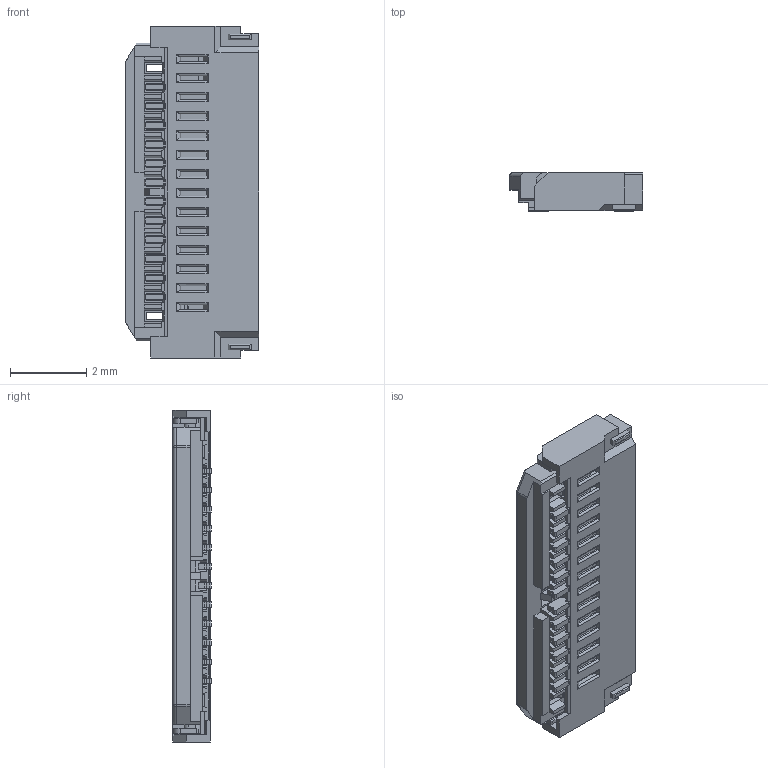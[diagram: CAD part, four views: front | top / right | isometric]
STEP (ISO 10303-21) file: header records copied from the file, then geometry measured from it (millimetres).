
FILE_DESCRIPTION (( 'STEP AP214' ), '1' );
FILE_NAME ('20597-RECE ASS''Y 10P ACT CLOSE.STEP', '2015-07-22T06:50:45', ( '' ), ( '' ), 'SwSTEP 2.0', 'SolidWorks 2012', '' );
FILE_SCHEMA (( 'AUTOMOTIVE_DESIGN' ));
Length unit declared in the file: millimetre
Products named in the file (1): 20597-RECE ASS''Y 10P ACT CLOSE
Bounding box: 3.5 x 1 x 8.7 mm (x, y, z)
Volume: 24.1 mm3; surface area: 110.8 mm2
Topology: 1 solids, 3 shells, 991 faces, 2913 edges, 1892 vertices
Faces by surface type: plane 752, cylinder 237, sphere 2
Entity records: 32858 total; most frequent: CARTESIAN_POINT 6878, ORIENTED_EDGE 5822, DIRECTION 4945, EDGE_CURVE 2911, VECTOR 2363, LINE 2363, VERTEX_POINT 1892, AXIS2_PLACEMENT_3D 1291
